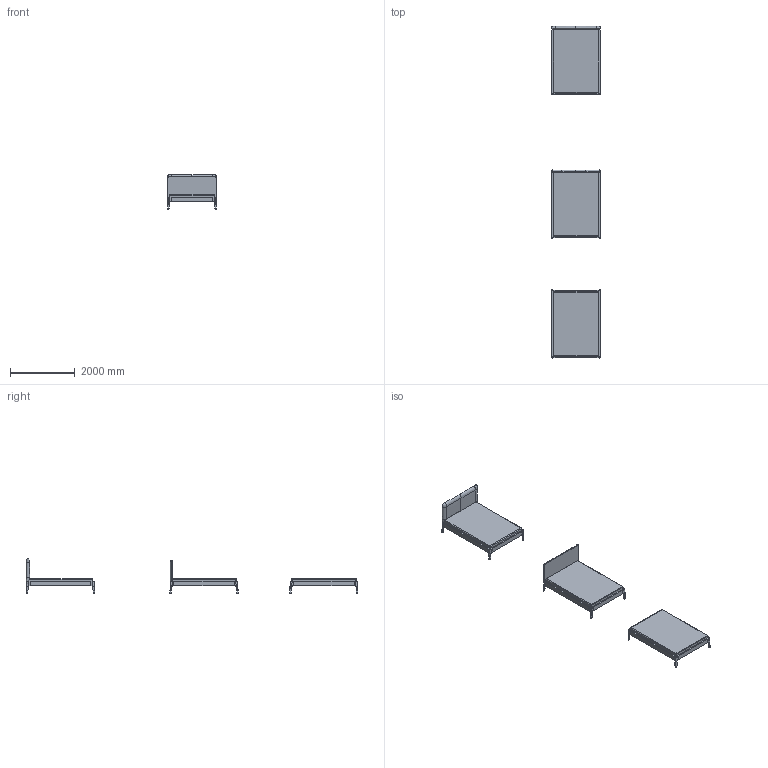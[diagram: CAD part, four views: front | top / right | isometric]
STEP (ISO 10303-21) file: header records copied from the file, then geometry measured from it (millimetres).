
FILE_DESCRIPTION(/* description */ (''),/* implementation_level */ '2;1');
FILE_NAME(/* name */ '140x200',/* time_stamp */ '2025-10-27T19:08:11+01:00',/* author */ (''),/* organization */ (''),/* preprocessor_version */ 'ST-DEVELOPER v16.5',/* originating_system */ 'Rhino 7.38',/* authorisation */ '');
FILE_SCHEMA (('CONFIG_CONTROL_DESIGN'));
Length unit declared in the file: millimetre
Products named in the file (1): Document
Bounding box: 1504.77 x 10247.15 x 1061.74 mm (x, y, z)
Volume: 1954774021.3 mm3; surface area: 33611132.6 mm2
Topology: 29 solids, 29 shells, 533 faces, 1201 edges, 720 vertices
Faces by surface type: plane 275, bspline 186, cylinder 72
Entity records: 53989 total; most frequent: CARTESIAN_POINT 45706, ORIENTED_EDGE 2378, EDGE_CURVE 1189, B_SPLINE_CURVE_WITH_KNOTS 1038, VERTEX_POINT 720, EDGE_LOOP 539, ADVANCED_FACE 533, FACE_OUTER_BOUND 533
